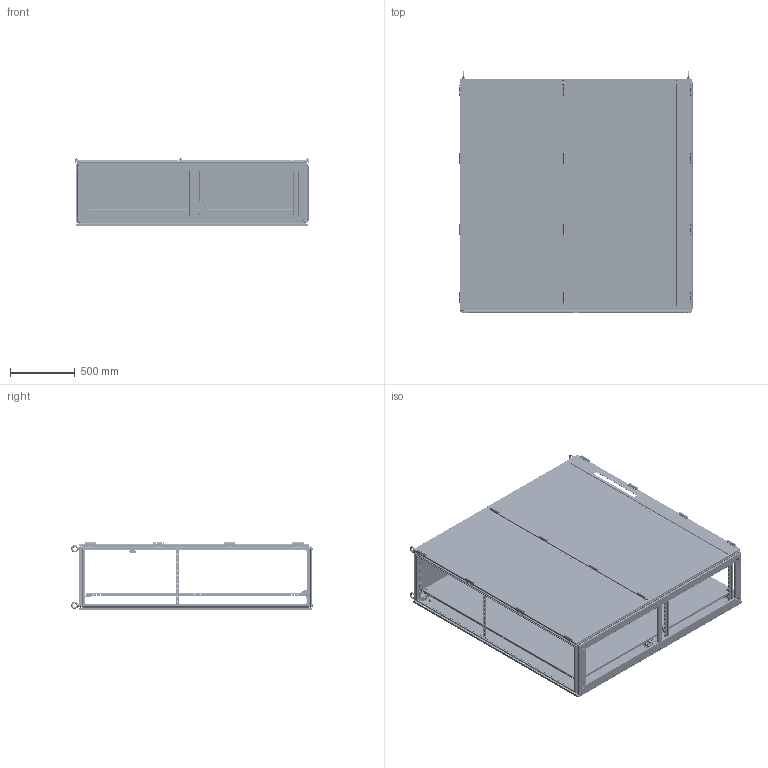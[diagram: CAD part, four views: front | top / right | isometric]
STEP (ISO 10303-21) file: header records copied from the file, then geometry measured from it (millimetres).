
FILE_DESCRIPTION((''),'2;1');
FILE_NAME('9951140_ASM','2015-03-11T',('us01724'),(''),'PRO/ENGINEER BY PARAMETRIC TECHNOLOGY CORPORATION, 2014310','PRO/ENGINEER BY PARAMETRIC TECHNOLOGY CORPORATION, 2014310','');
FILE_SCHEMA(('CONFIG_CONTROL_DESIGN'));
Products named in the file (71): D0051390_AF3; D0051390_AF2; D0242690_AF14; D0242690_AF15; D0051390; D0242690; D0242686; D0241135; D0054894_ASM; D0242686_AF0; D0051551; D0051552; D0054762_ASM; D0241538; D0241473; D0241151; D0208516; D0241463_TS_MPL_SLIDE_BLOCK_L; D0241464_TS_MPL_SLIDE_BLOCK_R; D0241469_TS_MPL_RETAINER_RIGHT; D0241468_TS_MPL_RETAINER_LEFT; D0027208; 211119; D0200620; D8800030_ROTATING_BODY; D8800030_STATIONARY_BODY; D8800030_ASM; D0043313; TS_GASKET_DR_FMDC_LEFT_0918; D0242763_TS8_GROUND_STUD_M8; D0242763_TS8_CAP_M8; D0242763_ASM; D0242679; D0223916; D0233321; D0233330; D0214486; D0272091_ASM; D0241489; D0241496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
Assembly tree (182 placements, depth 4):
  9951140_ASM
    D0054894_ASM
      D0051390_AF3
      D0051390_AF2
      D0242690_AF14
      D0242690_AF15
      D0051390  x2
      D0242690  x2
      D0242686  x4
      D0241135  x8
    D0054762_ASM  x4
      D0242686_AF0
      D0051551
      D0051552
    D0241538  x2
    D0241473  x2
    D0241151  x4
    D0208516  x2
    D0241463_TS_MPL_SLIDE_BLOCK_L
    D0241464_TS_MPL_SLIDE_BLOCK_R
    D0241469_TS_MPL_RETAINER_RIGHT
    D0241468_TS_MPL_RETAINER_LEFT
    D0027208
    211119
    D0200620
    D8800030_ASM  x12
      D8800030_ROTATING_BODY
      D8800030_STATIONARY_BODY
    D0043313_ASM
      D0043313
      TS_GASKET_DR_FMDC_LEFT_0918
      D0242763_ASM  x2
        D0242763_TS8_GROUND_STUD_M8
        D0242763_TS8_CAP_M8
      D0242679  x6
      D0223916  x8
      D0272091_ASM
        D0233321  x2
        D0233330  x2
        D0214486  x4
      TS_LOCKBAR_ASSY_1800_DBL_ASM
        D0241489
        D0241496  x2
        D0042690  x2
        D0030693  x4
    D0054741_ASM
      D0054741
      TS_GASKET_DOOR_FMDC_LEFT_0818
      D0242763_ASM  x2
        D0242763_TS8_GROUND_STUD_M8
        D0242763_TS8_CAP_M8
      D0242679  x6
      D0223916  x8
      D0272091_ASM
        D0233321  x2
        D0233330  x2
        D0214486  x4
      TS_LOCKBAR_ASSY_1800_ASM
        D0241491
        D0241496  x2
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Bounding box: 1798.28 x 1864.45 x 522.82 mm (x, y, z)
Volume: 32356220.4 mm3; surface area: 33027400.2 mm2
Topology: 215 solids, 247 shells, 35984 faces, 102343 edges, 66418 vertices
Faces by surface type: plane 20840, cylinder 13322, cone 696, torus 588, bspline 300, sphere 142, extrusion 96
Entity records: 441812 total; most frequent: CARTESIAN_POINT 81879, ORIENTED_EDGE 73788, DIRECTION 72845, EDGE_CURVE 36898, VECTOR 26261, LINE 26237, VERTEX_POINT 24073, AXIS2_PLACEMENT_3D 23292
